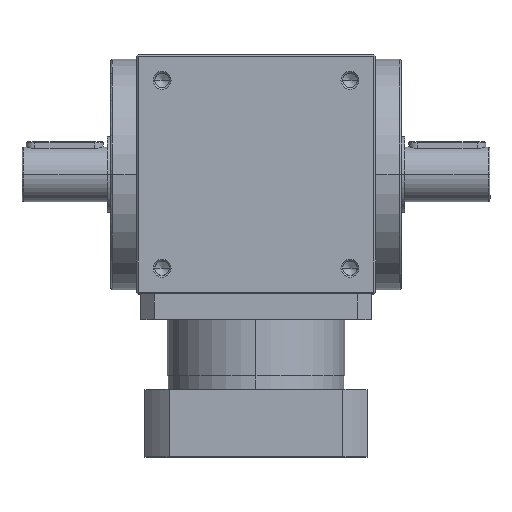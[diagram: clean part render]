
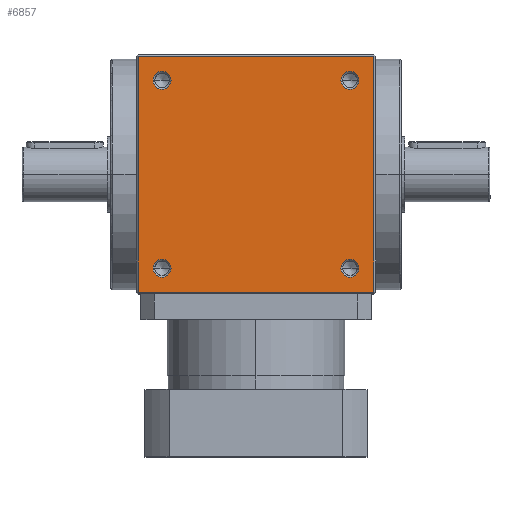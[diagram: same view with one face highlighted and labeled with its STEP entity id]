
A CAD part, top view. The second image highlights one B-rep face of the part: STEP entity #6857.
In plain terms, the highlighted planar face has unit normal (0, 0, 1).
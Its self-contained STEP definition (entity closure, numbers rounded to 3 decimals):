
#145 = LINE ( 'NONE', #791, #2848 ) ;
#325 = AXIS2_PLACEMENT_3D ( 'NONE', #9319, #3513, #10230 ) ;
#348 = CARTESIAN_POINT ( 'NONE',  ( 49.75, -55., 70. ) ) ;
#643 = ORIENTED_EDGE ( 'NONE', *, *, #12332, .F. ) ;
#688 = CIRCLE ( 'NONE', #6344, 5.25 ) ;
#791 = CARTESIAN_POINT ( 'NONE',  ( 69., 69., 70. ) ) ;
#890 = CARTESIAN_POINT ( 'NONE',  ( -55., -55., 70. ) ) ;
#989 = CARTESIAN_POINT ( 'NONE',  ( 60.25, 55., 70. ) ) ;
#1125 = EDGE_CURVE ( 'NONE', #5069, #12024, #6304, .T. ) ;
#1403 = ORIENTED_EDGE ( 'NONE', *, *, #9499, .T. ) ;
#1730 = FACE_BOUND ( 'NONE', #10915, .T. ) ;
#1790 = DIRECTION ( 'NONE',  ( 0., 0., 1. ) ) ;
#1924 = DIRECTION ( 'NONE',  ( 1., 0., 0. ) ) ;
#1974 = CIRCLE ( 'NONE', #325, 5.25 ) ;
#2089 = DIRECTION ( 'NONE',  ( -1., 0., 0. ) ) ;
#2106 = DIRECTION ( 'NONE',  ( 1., 0., 0. ) ) ;
#2108 = DIRECTION ( 'NONE',  ( 0., 0., 1. ) ) ;
#2124 = CARTESIAN_POINT ( 'NONE',  ( -55., 55., 70. ) ) ;
#2126 = VERTEX_POINT ( 'NONE', #8812 ) ;
#2263 = DIRECTION ( 'NONE',  ( 0., 0., -1. ) ) ;
#2304 = CARTESIAN_POINT ( 'NONE',  ( 69., -69., 70. ) ) ;
#2459 = DIRECTION ( 'NONE',  ( 1., 0., 0. ) ) ;
#2473 = DIRECTION ( 'NONE',  ( 0., 0., 1. ) ) ;
#2481 = CARTESIAN_POINT ( 'NONE',  ( 55., 55., 70. ) ) ;
#2576 = PLANE ( 'NONE',  #5634 ) ;
#2584 = VERTEX_POINT ( 'NONE', #11512 ) ;
#2848 = VECTOR ( 'NONE', #3715, 1000. ) ;
#2885 = ORIENTED_EDGE ( 'NONE', *, *, #7944, .F. ) ;
#3017 = DIRECTION ( 'NONE',  ( 1., 0., 0. ) ) ;
#3100 = AXIS2_PLACEMENT_3D ( 'NONE', #5281, #11852, #6280 ) ;
#3113 = EDGE_LOOP ( 'NONE', ( #643, #4600 ) ) ;
#3243 = DIRECTION ( 'NONE',  ( 0., 0., 1. ) ) ;
#3263 = CARTESIAN_POINT ( 'NONE',  ( 55., -55., 70. ) ) ;
#3513 = DIRECTION ( 'NONE',  ( 0., 0., 1. ) ) ;
#3524 = ORIENTED_EDGE ( 'NONE', *, *, #9353, .T. ) ;
#3631 = LINE ( 'NONE', #6067, #10928 ) ;
#3715 = DIRECTION ( 'NONE',  ( -1., 0., 0. ) ) ;
#3761 = CARTESIAN_POINT ( 'NONE',  ( 49.75, 55., 70. ) ) ;
#3831 = EDGE_CURVE ( 'NONE', #10932, #8728, #10367, .T. ) ;
#4200 = EDGE_LOOP ( 'NONE', ( #5256, #10340 ) ) ;
#4220 = VERTEX_POINT ( 'NONE', #6494 ) ;
#4384 = FACE_BOUND ( 'NONE', #3113, .T. ) ;
#4480 = EDGE_CURVE ( 'NONE', #2126, #2584, #10348, .T. ) ;
#4521 = VERTEX_POINT ( 'NONE', #9939 ) ;
#4600 = ORIENTED_EDGE ( 'NONE', *, *, #4480, .F. ) ;
#5069 = VERTEX_POINT ( 'NONE', #3761 ) ;
#5106 = CARTESIAN_POINT ( 'NONE',  ( -69., -69., 70. ) ) ;
#5256 = ORIENTED_EDGE ( 'NONE', *, *, #11964, .F. ) ;
#5281 = CARTESIAN_POINT ( 'NONE',  ( -55., 55., 70. ) ) ;
#5621 = VECTOR ( 'NONE', #6655, 1000. ) ;
#5634 = AXIS2_PLACEMENT_3D ( 'NONE', #2304, #2263, #2089 ) ;
#5780 = CARTESIAN_POINT ( 'NONE',  ( -69., -69., 70. ) ) ;
#6014 = CIRCLE ( 'NONE', #8980, 5.25 ) ;
#6067 = CARTESIAN_POINT ( 'NONE',  ( 69., -69., 70. ) ) ;
#6111 = DIRECTION ( 'NONE',  ( 0., 1., 0. ) ) ;
#6130 = CARTESIAN_POINT ( 'NONE',  ( -69., 69., 70. ) ) ;
#6145 = VERTEX_POINT ( 'NONE', #5106 ) ;
#6280 = DIRECTION ( 'NONE',  ( 1., 0., 0. ) ) ;
#6304 = CIRCLE ( 'NONE', #10484, 5.25 ) ;
#6344 = AXIS2_PLACEMENT_3D ( 'NONE', #7724, #1790, #8684 ) ;
#6494 = CARTESIAN_POINT ( 'NONE',  ( 60.25, -55., 70. ) ) ;
#6655 = DIRECTION ( 'NONE',  ( 1., 0., 0. ) ) ;
#6671 = CARTESIAN_POINT ( 'NONE',  ( 69., 69., 70. ) ) ;
#6763 = AXIS2_PLACEMENT_3D ( 'NONE', #2124, #2108, #2106 ) ;
#6857 = ADVANCED_FACE ( 'NONE', ( #11623, #1730, #4384, #7010, #9230 ), #2576, .F. ) ;
#7010 = FACE_BOUND ( 'NONE', #9087, .T. ) ;
#7399 = ORIENTED_EDGE ( 'NONE', *, *, #9119, .T. ) ;
#7593 = VERTEX_POINT ( 'NONE', #6671 ) ;
#7724 = CARTESIAN_POINT ( 'NONE',  ( 55., 55., 70. ) ) ;
#7742 = CIRCLE ( 'NONE', #3100, 5.25 ) ;
#7747 = EDGE_LOOP ( 'NONE', ( #7399, #11658, #3524, #1403 ) ) ;
#7805 = LINE ( 'NONE', #12268, #12069 ) ;
#7839 = DIRECTION ( 'NONE',  ( 0., 0., 1. ) ) ;
#7944 = EDGE_CURVE ( 'NONE', #8475, #4220, #6014, .T. ) ;
#8475 = VERTEX_POINT ( 'NONE', #348 ) ;
#8557 = LINE ( 'NONE', #5780, #5621 ) ;
#8684 = DIRECTION ( 'NONE',  ( 1., 0., 0. ) ) ;
#8728 = VERTEX_POINT ( 'NONE', #11500 ) ;
#8812 = CARTESIAN_POINT ( 'NONE',  ( -60.25, -55., 70. ) ) ;
#8980 = AXIS2_PLACEMENT_3D ( 'NONE', #3263, #3243, #3017 ) ;
#9087 = EDGE_LOOP ( 'NONE', ( #9377, #9444 ) ) ;
#9119 = EDGE_CURVE ( 'NONE', #12076, #6145, #7805, .T. ) ;
#9199 = CARTESIAN_POINT ( 'NONE',  ( -60.25, 55., 70. ) ) ;
#9230 = FACE_BOUND ( 'NONE', #4200, .T. ) ;
#9262 = EDGE_CURVE ( 'NONE', #6145, #4521, #8557, .T. ) ;
#9319 = CARTESIAN_POINT ( 'NONE',  ( 55., -55., 70. ) ) ;
#9353 = EDGE_CURVE ( 'NONE', #4521, #7593, #3631, .T. ) ;
#9377 = ORIENTED_EDGE ( 'NONE', *, *, #12264, .F. ) ;
#9444 = ORIENTED_EDGE ( 'NONE', *, *, #1125, .F. ) ;
#9499 = EDGE_CURVE ( 'NONE', #7593, #12076, #145, .T. ) ;
#9939 = CARTESIAN_POINT ( 'NONE',  ( 69., -69., 70. ) ) ;
#10230 = DIRECTION ( 'NONE',  ( 1., 0., 0. ) ) ;
#10340 = ORIENTED_EDGE ( 'NONE', *, *, #3831, .F. ) ;
#10348 = CIRCLE ( 'NONE', #10787, 5.25 ) ;
#10367 = CIRCLE ( 'NONE', #6763, 5.25 ) ;
#10484 = AXIS2_PLACEMENT_3D ( 'NONE', #2481, #2473, #2459 ) ;
#10736 = AXIS2_PLACEMENT_3D ( 'NONE', #890, #7839, #1924 ) ;
#10787 = AXIS2_PLACEMENT_3D ( 'NONE', #11323, #11286, #11282 ) ;
#10915 = EDGE_LOOP ( 'NONE', ( #11637, #2885 ) ) ;
#10928 = VECTOR ( 'NONE', #6111, 1000. ) ;
#10932 = VERTEX_POINT ( 'NONE', #9199 ) ;
#11282 = DIRECTION ( 'NONE',  ( 1., 0., 0. ) ) ;
#11286 = DIRECTION ( 'NONE',  ( 0., 0., 1. ) ) ;
#11323 = CARTESIAN_POINT ( 'NONE',  ( -55., -55., 70. ) ) ;
#11495 = DIRECTION ( 'NONE',  ( 0., -1., 0. ) ) ;
#11500 = CARTESIAN_POINT ( 'NONE',  ( -49.75, 55., 70. ) ) ;
#11512 = CARTESIAN_POINT ( 'NONE',  ( -49.75, -55., 70. ) ) ;
#11623 = FACE_OUTER_BOUND ( 'NONE', #7747, .T. ) ;
#11637 = ORIENTED_EDGE ( 'NONE', *, *, #12232, .F. ) ;
#11658 = ORIENTED_EDGE ( 'NONE', *, *, #9262, .T. ) ;
#11852 = DIRECTION ( 'NONE',  ( 0., 0., 1. ) ) ;
#11964 = EDGE_CURVE ( 'NONE', #8728, #10932, #7742, .T. ) ;
#12024 = VERTEX_POINT ( 'NONE', #989 ) ;
#12069 = VECTOR ( 'NONE', #11495, 1000. ) ;
#12076 = VERTEX_POINT ( 'NONE', #6130 ) ;
#12123 = CIRCLE ( 'NONE', #10736, 5.25 ) ;
#12232 = EDGE_CURVE ( 'NONE', #4220, #8475, #1974, .T. ) ;
#12264 = EDGE_CURVE ( 'NONE', #12024, #5069, #688, .T. ) ;
#12268 = CARTESIAN_POINT ( 'NONE',  ( -69., 69., 70. ) ) ;
#12332 = EDGE_CURVE ( 'NONE', #2584, #2126, #12123, .T. ) ;
